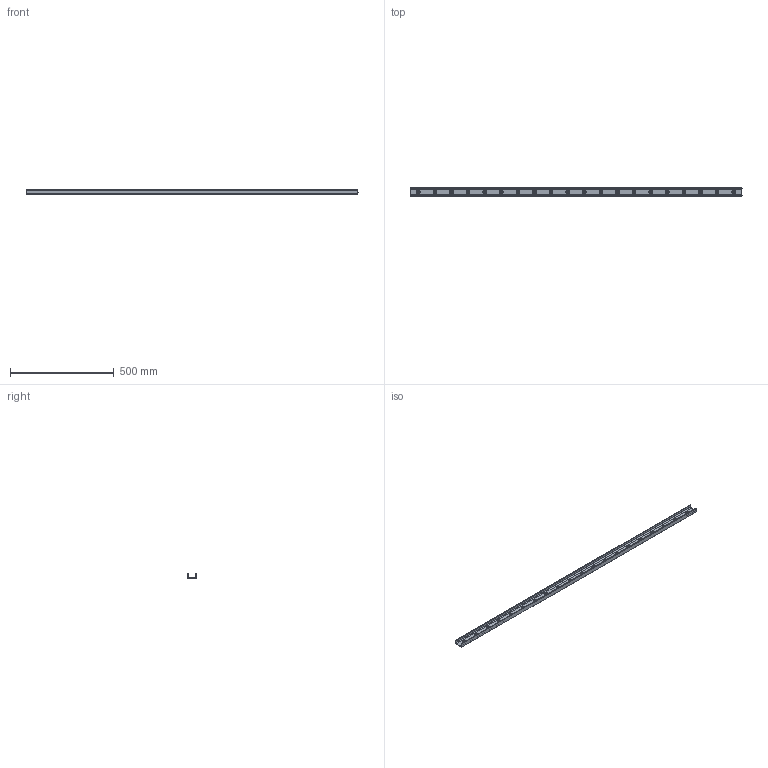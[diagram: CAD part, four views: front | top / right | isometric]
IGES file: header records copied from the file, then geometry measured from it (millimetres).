
Start section: SolidWorks IGES file using analytic representation for surfaces
Global section: file name: C:\Users\IanO\Desktop\43\L1943.ULC43_v2_20180121_IGES\L1943.ULC43-1600.igs; native system: SolidWorks 2017; preprocessor: SolidWorks 2017; author: IanO; date: 190121.084758; units: millimetre
Bounding box: 1600 x 43 x 21 mm (x, y, z)
Surface area: 251212.8 mm2 (no closed solid volume)
Topology: 0 solids, 0 shells, 126 faces, 3174 edges, 3174 vertices
Faces by surface type: revolution 93, bspline 33
